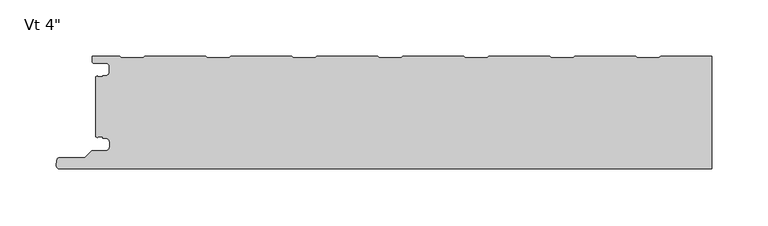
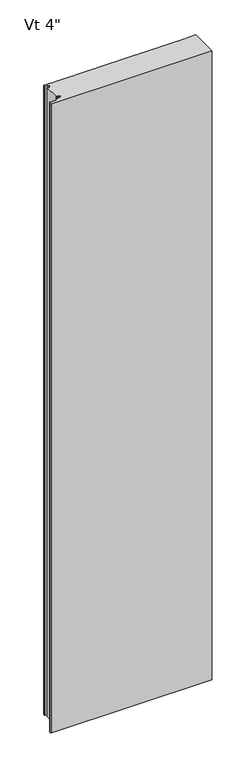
"""IFC4 building model written with IfcOpenShell, lengths in millimetres: plate geometry."""

from ifc_helpers import new_model, si_unit, frame, origin, place, context, project, spatial, polyline, circle_curve, source, transform, mapped, element, save
from ifc_brep_helpers import plane_surface, cylinder_surface, revolved_surface, advanced_brep


def plate_495b0d64(model_context):
    return source(origin(), model_context, "Body", "AdvancedBrep", [
        advanced_brep(
        [(-271.7683, -73.270875, 2400.0), (-270.567176, -72.1014003, 2400.0), (-266.8087826, -72.1014003, 2400.0), (-266.8087826, -73.4998791, 2400.0), (-264.1096715, -73.4998791, 2400.0), (-260.7596762, -76.8498744, 2400.0), (-260.7596762, -81.2498656, 2400.0), (-264.1096715, -84.5998609, 2400.0), (-275.9205606, -84.5998609, 2400.0), (-277.1226383, -85.0977778, 2400.0), (-282.6247094, -90.5998489, 2400.0), (-304.7198391, -90.5998489, 2400.0), (-307.3765707, -92.8184509, 2400.0), (-307.8125697, -97.8002718, 2400.0), (-305.2521175, -100.5945967, 2400.0), (272.7999998, -100.6, 2400.0), (272.7999998, -1.0, 2400.0), (227.5795537, -1.0, 2400.0), (226.1939207, -2.2002307, 2400.0), (206.8187544, -2.2002307, 2400.0), (205.4331215, -1.0, 2400.0), (151.3797061, -1.0, 2400.0), (149.9940731, -2.2002307, 2400.0), (130.6189068, -2.2002307, 2400.0), (129.2332739, -1.0, 2400.0), (75.1798585, -1.0, 2400.0), (73.7942255, -2.2002307, 2400.0), (54.4190592, -2.2002307, 2400.0), (53.0334263, -1.0, 2400.0), (-1.0199891, -1.0, 2400.0), (-2.4056221, -2.2002307, 2400.0), (-21.7807884, -2.2002307, 2400.0), (-23.1664213, -1.0, 2400.0), (-77.2198367, -1.0, 2400.0), (-78.6054697, -2.2002307, 2400.0), (-97.980636, -2.2002307, 2400.0), (-99.3662689, -1.0, 2400.0), (-153.4196843, -1.0, 2400.0), (-154.8053173, -2.2002307, 2400.0), (-174.1804836, -2.2002307, 2400.0), (-175.5661165, -1.0, 2400.0), (-229.6195319, -1.0, 2400.0), (-231.0051649, -2.2002307, 2400.0), (-250.3803312, -2.2002307, 2400.0), (-251.7659738, -0.9999916, 2400.0), (-276.2662504, -0.9999916, 2400.0), (-276.2662504, -5.2315389, 2400.0), (-274.4962562, -7.0015331, 2400.0), (-264.0762777, -7.0015331, 2400.0), (-260.7762818, -10.301529, 2400.0), (-260.7762818, -14.7015202, 2400.0), (-264.0762775, -18.0015159, 2400.0), (-266.7684873, -18.0015159, 2400.0), (-266.7684873, -19.0015105, 2400.0), (-270.768691, -19.0015105, 2400.0), (-271.7686882, -18.0015192, 2400.0), (-272.7999998, -19.0328308, 2400.0), (-272.7999998, -72.2391751, 2400.0), (-271.7683, -73.270875, 0.0), (-272.7999998, -72.2391751, 0.0), (-272.7999998, -19.0328308, 0.0), (-271.7686882, -18.0015192, 0.0), (-270.768691, -19.0015105, 0.0), (-266.7684873, -19.0015105, 0.0), (-266.7684873, -18.0015159, 0.0), (-264.0762775, -18.0015159, 0.0), (-260.7762818, -14.7015202, 0.0), (-260.7762818, -10.301529, 0.0), (-264.0762777, -7.0015331, 0.0), (-274.4962562, -7.0015331, 0.0), (-276.2662504, -5.2315389, 0.0), (-276.2662504, -0.9999916, 0.0), (-251.7659738, -0.9999916, 0.0), (-250.3803312, -2.2002307, 0.0), (-231.0051649, -2.2002307, 0.0), (-229.6195319, -1.0, 0.0), (-175.5661165, -1.0, 0.0), (-174.1804836, -2.2002307, 0.0), (-154.8053173, -2.2002307, 0.0), (-153.4196843, -1.0, 0.0), (-99.3662689, -1.0, 0.0), (-97.980636, -2.2002307, 0.0), (-78.6054697, -2.2002307, 0.0), (-77.2198367, -1.0, 0.0), (-23.1664213, -1.0, 0.0), (-21.7807884, -2.2002307, 0.0), (-2.4056221, -2.2002307, 0.0), (-1.0199891, -1.0, 0.0), (53.0334263, -1.0, 0.0), (54.4190592, -2.2002307, 0.0), (73.7942255, -2.2002307, 0.0), (75.1798585, -1.0, 0.0), (129.2332739, -1.0, 0.0), (130.6189068, -2.2002307, 0.0), (149.9940731, -2.2002307, 0.0), (151.3797061, -1.0, 0.0), (205.4331215, -1.0, 0.0), (206.8187544, -2.2002307, 0.0), (226.1939207, -2.2002307, 0.0), (227.5795537, -1.0, 0.0), (272.7999998, -1.0, 0.0), (272.7999998, -100.6, 0.0), (-305.2521175, -100.6, 0.0), (-307.8125697, -97.8002718, 0.0), (-307.3765707, -92.8184509, 0.0), (-304.7198391, -90.5998489, 0.0), (-282.6247094, -90.5998489, 0.0), (-277.1226383, -85.0977778, 0.0), (-275.9205606, -84.5998609, 0.0), (-264.1096715, -84.5998609, 0.0), (-260.7596762, -81.2498656, 0.0), (-260.7596762, -76.8498744, 0.0), (-264.1096715, -73.4998791, 0.0), (-266.8087826, -73.4998791, 0.0), (-266.8087826, -72.1014003, 0.0), (-270.567176, -72.1014003, 0.0)],
        [
            (0, 1, circle_curve(frame((-270.5686906, -73.3013969, 2400.0), z_axis=(0.0, 0.0, -1.0), x_axis=(-1.0, 0.0, 0.0)), 1.1999976)),
            (1, 2),
            (2, 3),
            (3, 4),
            (4, 5, circle_curve(frame((-264.1096715, -76.8498744, 2400.0), z_axis=(0.0, 0.0, -1.0), x_axis=(-1.0, 0.0, 0.0)), 3.3499953)),
            (5, 6),
            (6, 7, circle_curve(frame((-264.1096715, -81.2498656, 2400.0), z_axis=(0.0, 0.0, -1.0), x_axis=(-1.0, 0.0, 0.0)), 3.3499953)),
            (7, 8),
            (8, 9, circle_curve(frame((-275.9205606, -86.2998555, 2400.0), z_axis=(0.0, 0.0, 1.0), x_axis=(-1.0, 0.0, 0.0)), 1.6999946)),
            (9, 10),
            (10, 11),
            (11, 12, circle_curve(frame((-304.7198391, -93.2998415, 2400.0), z_axis=(0.0, 0.0, 1.0), x_axis=(-1.0, 0.0, 0.0)), 2.6999926)),
            (12, 13),
            (13, 14, circle_curve(frame((-305.2521175, -98.0243575, 2400.0), z_axis=(0.0, 0.0, 1.0), x_axis=(-1.0, 0.0, 0.0)), 2.5702393)),
            (14, 15),
            (15, 16),
            (16, 17),
            (17, 18),
            (18, 19),
            (19, 20),
            (20, 21),
            (21, 22),
            (22, 23),
            (23, 24),
            (24, 25),
            (25, 26),
            (26, 27),
            (27, 28),
            (28, 29),
            (29, 30),
            (30, 31),
            (31, 32),
            (32, 33),
            (33, 34),
            (34, 35),
            (35, 36),
            (36, 37),
            (37, 38),
            (38, 39),
            (39, 40),
            (40, 41),
            (41, 42),
            (42, 43),
            (43, 44),
            (44, 45),
            (45, 46),
            (46, 47, circle_curve(frame((-274.4962562, -5.2315389, 2400.0), z_axis=(0.0, 0.0, 1.0), x_axis=(1.0, 0.0, 0.0)), 1.7699942)),
            (47, 48),
            (48, 49, circle_curve(frame((-264.0762777, -10.301529, 2400.0), z_axis=(0.0, 0.0, -1.0), x_axis=(1.0, 0.0, 0.0)), 3.2999959)),
            (49, 50),
            (50, 51, circle_curve(frame((-264.0762775, -14.7015202, 2400.0), z_axis=(0.0, 0.0, -1.0), x_axis=(1.0, 0.0, 0.0)), 3.2999957)),
            (51, 52),
            (52, 53),
            (53, 54),
            (54, 55, circle_curve(frame((-270.768691, -18.0015133, 2400.0), z_axis=(0.0, 0.0, -1.0), x_axis=(1.0, 0.0, 0.0)), 0.9999972)),
            (55, 56),
            (56, 57),
            (57, 0),
            (58, 59),
            (59, 60),
            (60, 61),
            (61, 62, circle_curve(frame((-270.768691, -18.0015133, 0.0), z_axis=(0.0, 0.0, 1.0), x_axis=(1.0, 0.0, 0.0)), 0.9999972)),
            (62, 63),
            (63, 64),
            (64, 65),
            (65, 66, circle_curve(frame((-264.0762775, -14.7015202, 0.0), z_axis=(0.0, 0.0, 1.0), x_axis=(1.0, 0.0, 0.0)), 3.2999957)),
            (66, 67),
            (67, 68, circle_curve(frame((-264.0762777, -10.301529, 0.0), z_axis=(0.0, 0.0, 1.0), x_axis=(1.0, 0.0, 0.0)), 3.2999959)),
            (68, 69),
            (69, 70, circle_curve(frame((-274.4962562, -5.2315389, 0.0), z_axis=(0.0, 0.0, -1.0), x_axis=(1.0, 0.0, 0.0)), 1.7699942)),
            (70, 71),
            (71, 72),
            (72, 73),
            (73, 74),
            (74, 75),
            (75, 76),
            (76, 77),
            (77, 78),
            (78, 79),
            (79, 80),
            (80, 81),
            (81, 82),
            (82, 83),
            (83, 84),
            (84, 85),
            (85, 86),
            (86, 87),
            (87, 88),
            (88, 89),
            (89, 90),
            (90, 91),
            (91, 92),
            (92, 93),
            (93, 94),
            (94, 95),
            (95, 96),
            (96, 97),
            (97, 98),
            (98, 99),
            (99, 100),
            (100, 101),
            (101, 102),
            (102, 103, circle_curve(frame((-305.2521175, -98.0243575, 0.0), z_axis=(0.0, 0.0, -1.0), x_axis=(-1.0, 0.0, 0.0)), 2.5702393)),
            (103, 104),
            (104, 105, circle_curve(frame((-304.7198391, -93.2998415, 0.0), z_axis=(0.0, 0.0, -1.0), x_axis=(-1.0, 0.0, 0.0)), 2.6999926)),
            (105, 106),
            (106, 107),
            (107, 108, circle_curve(frame((-275.9205606, -86.2998555, 0.0), z_axis=(0.0, 0.0, -1.0), x_axis=(-1.0, 0.0, 0.0)), 1.6999946)),
            (108, 109),
            (109, 110, circle_curve(frame((-264.1096715, -81.2498656, 0.0), z_axis=(0.0, 0.0, 1.0), x_axis=(-1.0, 0.0, 0.0)), 3.3499953)),
            (110, 111),
            (111, 112, circle_curve(frame((-264.1096715, -76.8498744, 0.0), z_axis=(0.0, 0.0, 1.0), x_axis=(-1.0, 0.0, 0.0)), 3.3499953)),
            (112, 113),
            (113, 114),
            (114, 115),
            (115, 58, circle_curve(frame((-270.5686906, -73.3013969, 0.0), z_axis=(0.0, 0.0, 1.0), x_axis=(-1.0, 0.0, 0.0)), 1.1999976)),
            (57, 59),
            (58, 0),
            (56, 60),
            (101, 15),
            (14, 102),
            (13, 103),
            (12, 104),
            (11, 105),
            (10, 106),
            (9, 107),
            (8, 108),
            (7, 109),
            (6, 110),
            (5, 111),
            (4, 112),
            (3, 113),
            (2, 114),
            (1, 115),
            (55, 61),
            (54, 62),
            (53, 63),
            (52, 64),
            (51, 65),
            (50, 66),
            (49, 67),
            (48, 68),
            (47, 69),
            (46, 70),
            (45, 71),
            (44, 72),
            (100, 16),
            (43, 73),
            (42, 74),
            (41, 75),
            (40, 76),
            (39, 77),
            (38, 78),
            (37, 79),
            (36, 80),
            (35, 81),
            (34, 82),
            (33, 83),
            (32, 84),
            (31, 85),
            (30, 86),
            (29, 87),
            (28, 88),
            (27, 89),
            (26, 90),
            (25, 91),
            (24, 92),
            (23, 93),
            (22, 94),
            (21, 95),
            (20, 96),
            (19, 97),
            (18, 98),
            (17, 99),
        ],
        [
            plane_surface(frame((184.4000002, -100.6, 2400.0), z_axis=(0.0, 0.0, 1.0), x_axis=(0.0, -1.0, 0.0))),
            plane_surface(frame((184.4000002, -100.6, 0.0), z_axis=(0.0, 0.0, -1.0), x_axis=(0.0, -1.0, 0.0))),
            plane_surface(frame((-271.7683, -73.270875, 2400.0), z_axis=(-0.707106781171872, -0.7071067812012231, 0.0), x_axis=(0.0, 0.0, -1.0))),
            plane_surface(frame((-272.7999998, -72.2391751, 2400.0), z_axis=(-1.0, 0.0, 0.0), x_axis=(0.0, 0.0, -1.0))),
            plane_surface(frame((593.1156221, -100.6, 2400.0), z_axis=(0.0, -1.0, 0.0), x_axis=(0.0, 0.0, -1.0))),
            cylinder_surface(frame((-305.2521175, -98.0243575, 2400.0), z_axis=(0.0, 0.0, 1.0), x_axis=(-1.0, 0.0, 0.0)), 2.5702393),
            plane_surface(frame((-307.8125697, -97.8002718, 2400.0), z_axis=(-0.9961921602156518, 0.08718474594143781, 0.0), x_axis=(0.0, 0.0, -1.0))),
            cylinder_surface(frame((-304.7198391, -93.2998415, 2400.0), z_axis=(0.0, 0.0, 1.0), x_axis=(-1.0, 0.0, 0.0)), 2.6999926),
            plane_surface(frame((-304.7198391, -90.5998489, 2400.0), z_axis=(0.0, 1.0, 0.0), x_axis=(0.0, 0.0, -1.0))),
            plane_surface(frame((-282.6247094, -90.5998489, 2400.0), z_axis=(-0.707106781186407, 0.7071067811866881, 0.0), x_axis=(0.0, 0.0, -1.0))),
            cylinder_surface(frame((-275.9205606, -86.2998555, 2400.0), z_axis=(0.0, 0.0, 1.0), x_axis=(-1.0, 0.0, 0.0)), 1.6999946),
            plane_surface(frame((-275.9205606, -84.5998609, 2400.0), z_axis=(0.0, 1.0, 0.0), x_axis=(0.0, 0.0, -1.0))),
            revolved_surface(polyline([(-267.4596668, -81.2498656, 0.0), (-267.4596668, -81.2498656, 2400.0)]), (-264.1096715, -81.2498656, 2400.0), (0.0, 0.0, -1.0)),
            plane_surface(frame((-260.7596762, -81.2498656, 2400.0), z_axis=(-1.0, 0.0, 0.0), x_axis=(0.0, 0.0, -1.0))),
            revolved_surface(polyline([(-267.4596668, -76.8498744, 0.0), (-267.4596668, -76.8498744, 2400.0)]), (-264.1096715, -76.8498744, 2400.0), (0.0, 0.0, -1.0)),
            plane_surface(frame((-264.1096715, -73.4998791, 2400.0), z_axis=(0.0, -1.0, 0.0), x_axis=(0.0, 0.0, -1.0))),
            plane_surface(frame((-266.8087826, -73.4998791, 2400.0), z_axis=(-1.0, 0.0, 0.0), x_axis=(0.0, 0.0, -1.0))),
            plane_surface(frame((-266.8087826, -72.1014003, 2400.0), z_axis=(0.0, -1.0, 0.0), x_axis=(0.0, 0.0, -1.0))),
            revolved_surface(polyline([(-271.76868820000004, -73.3013969, 0.0), (-271.76868820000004, -73.3013969, 2400.0)]), (-270.5686906, -73.3013969, 2400.0), (0.0, 0.0, -1.0)),
            plane_surface(frame((-272.7999998, -19.0328308, 2400.0), z_axis=(-0.7071067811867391, 0.707106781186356, 0.0), x_axis=(0.0, 0.0, -1.0))),
            revolved_surface(polyline([(-269.7686938, -18.0015133, 0.0), (-269.7686938, -18.0015133, 2400.0)]), (-270.768691, -18.0015133, 2400.0), (0.0, 0.0, -1.0)),
            plane_surface(frame((-270.768691, -19.0015105, 2400.0), z_axis=(0.0, 1.0, 0.0), x_axis=(0.0, 0.0, -1.0))),
            plane_surface(frame((-266.7684873, -19.0015105, 2400.0), z_axis=(-1.0, 0.0, 0.0), x_axis=(0.0, 0.0, -1.0))),
            plane_surface(frame((-266.7684873, -18.0015159, 2400.0), z_axis=(0.0, 1.0, 0.0), x_axis=(0.0, 0.0, -1.0))),
            revolved_surface(polyline([(-260.7762818, -14.7015202, 0.0), (-260.7762818, -14.7015202, 2400.0)]), (-264.0762775, -14.7015202, 2400.0), (0.0, 0.0, -1.0)),
            plane_surface(frame((-260.7762818, -14.7015202, 2400.0), z_axis=(-1.0, 0.0, 0.0), x_axis=(0.0, 0.0, -1.0))),
            revolved_surface(polyline([(-260.7762818, -10.301529, 0.0), (-260.7762818, -10.301529, 2400.0)]), (-264.0762777, -10.301529, 2400.0), (0.0, 0.0, -1.0)),
            plane_surface(frame((-264.0762777, -7.0015331, 2400.0), z_axis=(0.0, -1.0, 0.0), x_axis=(0.0, 0.0, -1.0))),
            cylinder_surface(frame((-274.4962562, -5.2315389, 2400.0), z_axis=(0.0, 0.0, 1.0), x_axis=(1.0, 0.0, 0.0)), 1.7699942),
            plane_surface(frame((-276.2662504, -5.2315389, 2400.0), z_axis=(-1.0, 0.0, 0.0), x_axis=(0.0, 0.0, -1.0))),
            plane_surface(frame((-276.2662504, -0.9999916, 2400.0), z_axis=(0.0, 1.0, 0.0), x_axis=(0.0, 0.0, -1.0))),
            plane_surface(frame((272.7999998, -111.6, 2400.0), z_axis=(1.0, 0.0, 0.0), x_axis=(0.0, 0.0, -1.0))),
            plane_surface(frame((-251.7659738, -0.9999916, 2400.0), z_axis=(0.6547276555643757, 0.7558648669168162, 0.0), x_axis=(0.0, 0.0, -1.0))),
            plane_surface(frame((-250.3803312, -2.2002307, 2400.0), z_axis=(0.0, 1.0, 0.0), x_axis=(0.0, 0.0, -1.0))),
            plane_surface(frame((-231.0051649, -2.2002307, 2400.0), z_axis=(-0.6547276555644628, 0.7558648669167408, 0.0), x_axis=(0.0, 0.0, -1.0))),
            plane_surface(frame((-229.6195319, -1.0, 2400.0), z_axis=(0.0, 1.0, 0.0), x_axis=(0.0, 0.0, -1.0))),
            plane_surface(frame((-175.5661165, -1.0, 2400.0), z_axis=(0.6547276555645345, 0.7558648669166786, 0.0), x_axis=(0.0, 0.0, -1.0))),
            plane_surface(frame((-174.1804836, -2.2002307, 2400.0), z_axis=(0.0, 1.0, 0.0), x_axis=(0.0, 0.0, -1.0))),
            plane_surface(frame((-154.8053173, -2.2002307, 2400.0), z_axis=(-0.654727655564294, 0.755864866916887, 0.0), x_axis=(0.0, 0.0, -1.0))),
            plane_surface(frame((-153.4196843, -1.0, 2400.0), z_axis=(0.0, 1.0, 0.0), x_axis=(0.0, 0.0, -1.0))),
            plane_surface(frame((-99.3662689, -1.0, 2400.0), z_axis=(0.6547276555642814, 0.7558648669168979, 0.0), x_axis=(0.0, 0.0, -1.0))),
            plane_surface(frame((-97.980636, -2.2002307, 2400.0), z_axis=(0.0, 1.0, 0.0), x_axis=(0.0, 0.0, -1.0))),
            plane_surface(frame((-78.6054697, -2.2002307, 2400.0), z_axis=(-0.6547276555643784, 0.7558648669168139, 0.0), x_axis=(0.0, 0.0, -1.0))),
            plane_surface(frame((-77.2198367, -1.0, 2400.0), z_axis=(0.0, 1.0, 0.0), x_axis=(0.0, 0.0, -1.0))),
            plane_surface(frame((-23.1664213, -1.0, 2400.0), z_axis=(0.6547276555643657, 0.7558648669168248, 0.0), x_axis=(0.0, 0.0, -1.0))),
            plane_surface(frame((-21.7807884, -2.2002307, 2400.0), z_axis=(0.0, 1.0, 0.0), x_axis=(0.0, 0.0, -1.0))),
            plane_surface(frame((-2.4056221, -2.2002307, 2400.0), z_axis=(-0.6547276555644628, 0.7558648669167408, 0.0), x_axis=(0.0, 0.0, -1.0))),
            plane_surface(frame((-1.0199891, -1.0, 2400.0), z_axis=(0.0, 1.0, 0.0), x_axis=(0.0, 0.0, -1.0))),
            plane_surface(frame((53.0334263, -1.0, 2400.0), z_axis=(0.6547276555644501, 0.7558648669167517, 0.0), x_axis=(0.0, 0.0, -1.0))),
            plane_surface(frame((54.4190592, -2.2002307, 2400.0), z_axis=(0.0, 1.0, 0.0), x_axis=(0.0, 0.0, -1.0))),
            plane_surface(frame((73.7942255, -2.2002307, 2400.0), z_axis=(-0.6547276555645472, 0.7558648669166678, 0.0), x_axis=(0.0, 0.0, -1.0))),
            plane_surface(frame((75.1798585, -1.0, 2400.0), z_axis=(0.0, 1.0, 0.0), x_axis=(0.0, 0.0, -1.0))),
            plane_surface(frame((129.2332739, -1.0, 2400.0), z_axis=(0.6547276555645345, 0.7558648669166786, 0.0), x_axis=(0.0, 0.0, -1.0))),
            plane_surface(frame((130.6189068, -2.2002307, 2400.0), z_axis=(0.0, 1.0, 0.0), x_axis=(0.0, 0.0, -1.0))),
            plane_surface(frame((149.9940731, -2.2002307, 2400.0), z_axis=(-0.6547276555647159, 0.7558648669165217, 0.0), x_axis=(0.0, 0.0, -1.0))),
            plane_surface(frame((151.3797061, -1.0, 2400.0), z_axis=(0.0, 1.0, 0.0), x_axis=(0.0, 0.0, -1.0))),
            plane_surface(frame((205.4331215, -1.0, 2400.0), z_axis=(0.6547276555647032, 0.7558648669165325, 0.0), x_axis=(0.0, 0.0, -1.0))),
            plane_surface(frame((206.8187544, -2.2002307, 2400.0), z_axis=(0.0, 1.0, 0.0), x_axis=(0.0, 0.0, -1.0))),
            plane_surface(frame((226.1939207, -2.2002307, 2400.0), z_axis=(-0.6547276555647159, 0.7558648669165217, 0.0), x_axis=(0.0, 0.0, -1.0))),
            plane_surface(frame((227.5795537, -1.0, 2400.0), z_axis=(0.0, 1.0, 0.0), x_axis=(0.0, 0.0, -1.0))),
        ],
        [
            (0, [[1, 2, 3, 4, 5, 6, 7, 8, 9, 10, 11, 12, 13, 14, 15, 16, 17, 18, 19, 20, 21, 22, 23, 24, 25, 26, 27, 28, 29, 30, 31, 32, 33, 34, 35, 36, 37, 38, 39, 40, 41, 42, 43, 44, 45, 46, 47, 48, 49, 50, 51, 52, 53, 54, 55, 56, 57, 58]]),
            (1, [[59, 60, 61, 62, 63, 64, 65, 66, 67, 68, 69, 70, 71, 72, 73, 74, 75, 76, 77, 78, 79, 80, 81, 82, 83, 84, 85, 86, 87, 88, 89, 90, 91, 92, 93, 94, 95, 96, 97, 98, 99, 100, 101, 102, 103, 104, 105, 106, 107, 108, 109, 110, 111, 112, 113, 114, 115, 116]]),
            (2, [[117, -59, 118, -58]]),
            (3, [[-57, 119, -60, -117]]),
            (4, [[-102, 120, -15, 121]]),
            (5, [[122, -103, -121, -14]]),
            (6, [[123, -104, -122, -13]]),
            (7, [[124, -105, -123, -12]]),
            (8, [[125, -106, -124, -11]]),
            (9, [[126, -107, -125, -10]]),
            (10, [[127, -108, -126, -9]]),
            (11, [[128, -109, -127, -8]]),
            (12, [[129, -110, -128, -7]]),
            (13, [[130, -111, -129, -6]]),
            (14, [[131, -112, -130, -5]]),
            (15, [[132, -113, -131, -4]]),
            (16, [[133, -114, -132, -3]]),
            (17, [[134, -115, -133, -2]]),
            (18, [[-118, -116, -134, -1]]),
            (19, [[135, -61, -119, -56]]),
            (20, [[136, -62, -135, -55]]),
            (21, [[137, -63, -136, -54]]),
            (22, [[138, -64, -137, -53]]),
            (23, [[139, -65, -138, -52]]),
            (24, [[140, -66, -139, -51]]),
            (25, [[141, -67, -140, -50]]),
            (26, [[142, -68, -141, -49]]),
            (27, [[143, -69, -142, -48]]),
            (28, [[144, -70, -143, -47]]),
            (29, [[145, -71, -144, -46]]),
            (30, [[146, -72, -145, -45]]),
            (31, [[-120, -101, 147, -16]]),
            (32, [[148, -73, -146, -44]]),
            (33, [[149, -74, -148, -43]]),
            (34, [[150, -75, -149, -42]]),
            (35, [[151, -76, -150, -41]]),
            (36, [[152, -77, -151, -40]]),
            (37, [[153, -78, -152, -39]]),
            (38, [[154, -79, -153, -38]]),
            (39, [[155, -80, -154, -37]]),
            (40, [[156, -81, -155, -36]]),
            (41, [[157, -82, -156, -35]]),
            (42, [[158, -83, -157, -34]]),
            (43, [[159, -84, -158, -33]]),
            (44, [[160, -85, -159, -32]]),
            (45, [[161, -86, -160, -31]]),
            (46, [[162, -87, -161, -30]]),
            (47, [[163, -88, -162, -29]]),
            (48, [[164, -89, -163, -28]]),
            (49, [[165, -90, -164, -27]]),
            (50, [[166, -91, -165, -26]]),
            (51, [[167, -92, -166, -25]]),
            (52, [[168, -93, -167, -24]]),
            (53, [[169, -94, -168, -23]]),
            (54, [[170, -95, -169, -22]]),
            (55, [[171, -96, -170, -21]]),
            (56, [[172, -97, -171, -20]]),
            (57, [[173, -98, -172, -19]]),
            (58, [[174, -99, -173, -18]]),
            (59, [[-17, -147, -100, -174]]),
        ],
    ),
    ])


if __name__ == "__main__":
    model = new_model("IFC4")
    model_context = context("Model", 3, world=origin())
    ifc_project = project(units=[si_unit("LENGTHUNIT", "METRE", prefix="MILLI")], contexts=[model_context])
    site = spatial("IfcSite", under=ifc_project)
    building = spatial("IfcBuilding", under=site)
    placement = place(None, origin())
    plate_shape = plate_495b0d64(model_context)
    element("IfcPlate", 1, ObjectType="KIP-36-Karrier-KP-R19-CP-Vt-FL3-8in_SL : Vt 4\"", at=placement, inside=building, context=model_context, shape_type="MappedRepresentation", body=[
        mapped(plate_shape, transform((0.0, 0.0, 0.0), x_axis=(1.0, 0.0, 0.0), y_axis=(0.0, 1.0, 0.0), z_axis=(0.0, 0.0, 1.0))),
    ])
    save(model, "model.ifc")
